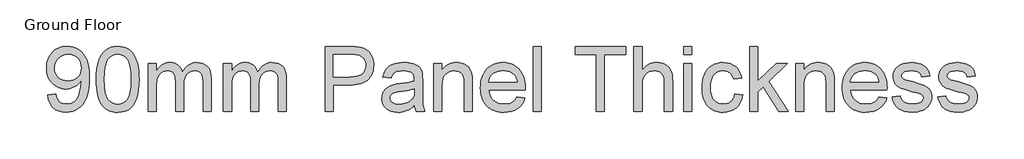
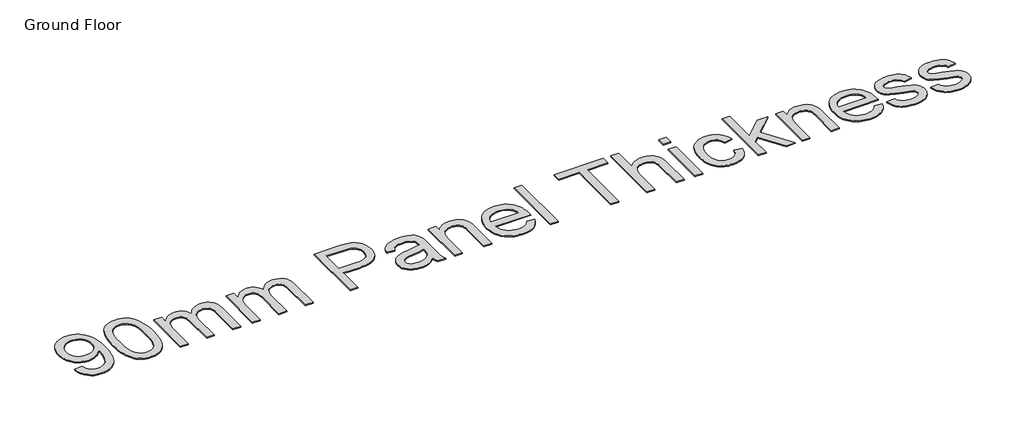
# One storey, part 5 of 6: 1 proxy.
"""IFC4 building model written with IfcOpenShell, lengths in millimetres."""

from ifc_helpers import new_model, si_unit, origin, origin_with_axes, place, context, project, spatial, polyline, outline, extrude, element, save

model = new_model("IFC4")

# Units and contexts
model_context = context("Model", 3, world=origin())
ifc_project = project(units=[si_unit("LENGTHUNIT", "METRE", prefix="MILLI")], contexts=[model_context])

# Site, building, storey
site = spatial("IfcSite", under=ifc_project)
building = spatial("IfcBuilding", under=site)
storey = spatial("IfcBuildingStorey", under=building, Name="Ground Floor", Elevation=0.0)

# Proxy
placement = place(None, origin())
element("IfcBuildingElementProxy", 1, Name="1200mm Arial", ObjectType="1200mm Arial", at=placement, inside=storey, context=model_context, shape_type="SweptSolid", body=[
    extrude(outline(polyline([(-5735.4136101, 23311.7631807), (-5584.7291449, 23330.5987389), (-5573.876626, 23284.4203514), (-5558.9774052, 23245.066175), (-5540.0314824, 23212.5362096), (-5517.0388577, 23186.8304552), (-5490.2570485, 23167.3235124), (-5459.9435721, 23153.3899818), (-5426.0984285, 23145.0298634), (-5388.7216178, 23142.2431573), (-5356.0444996, 23144.0365821), (-5324.8205153, 23149.4168562), (-5295.0496648, 23158.3839799), (-5266.7319482, 23170.937953), (-5240.869844, 23186.4901643), (-5218.4658305, 23204.4520027), (-5199.5199077, 23224.8234682), (-5184.0320757, 23247.6045608), (-5157.9492422, 23304.3319644), (-5134.7358884, 23378.570551), (-5118.4019278, 23463.7720211), (-5112.9572742, 23553.3880751), (-5113.840191, 23582.8186348), (-5137.9272647, 23549.304585), (-5166.0426461, 23519.1014732), (-5198.1863355, 23492.2092993), (-5234.3583326, 23468.6280635), (-5273.326233, 23449.4430174), (-5313.8576318, 23435.7394131), (-5355.9525291, 23427.5172505), (-5399.6109249, 23424.7765296), (-5436.1209136, 23426.4503927), (-5471.1915641, 23431.4719819), (-5504.8228762, 23439.8412973), (-5537.0148501, 23451.5583389), (-5567.7674856, 23466.6231066), (-5597.0807828, 23485.0356004), (-5624.9547418, 23506.7958205), (-5651.3893624, 23531.9037666), (-5675.4971294, 23559.7478351), (-5696.3905274, 23589.7164222), (-5714.0695566, 23621.8095277), (-5728.5342168, 23656.0271518), (-5739.784508, 23692.3692944), (-5747.8204304, 23730.8359555), (-5752.6419838, 23771.4271352), (-5754.2491682, 23814.1428333), (-5752.5638088, 23858.2886727), (-5747.5077307, 23900.2272202), (-5739.0809337, 23939.9584757), (-5727.283418, 23977.4824392), (-5712.1151835, 24012.7991107), (-5693.5762302, 24045.9084903), (-5671.6665581, 24076.8105779), (-5646.3861672, 24105.5053735), (-5618.5673906, 24131.3720763), (-5589.0425612, 24153.7898854), (-5557.8116791, 24172.7588007), (-5524.8747442, 24188.2788224), (-5490.2317566, 24200.3499504), (-5453.8827162, 24208.9721846), (-5415.8276231, 24214.1455252), (-5376.0664772, 24215.8699721), (-5318.6125066, 24211.9336347), (-5263.6785277, 24200.1246227), (-5211.2645404, 24180.4429359), (-5161.3705448, 24152.8885745), (-5115.6612069, 24118.0501495), (-5075.8011927, 24076.5162723), (-5041.7905023, 24028.2869427), (-5013.6291355, 23973.3621608), (-4991.5470188, 23908.5781415), (-4975.7740782, 23830.7710995), (-4966.3103139, 23739.9410349), (-4963.1557258, 23636.0879477), (-4966.3011169, 23527.0201331), (-4975.73729, 23429.6693602), (-4991.4642453, 23344.0356287), (-5013.4819827, 23270.1189389), (-5041.7077288, 23206.1166687), (-5076.0587101, 23150.2261966), (-5116.5349266, 23102.4475225), (-5163.1363784, 23062.7806464), (-5214.9249663, 23031.6210414), (-5270.9625912, 23009.3641807), (-5331.2492531, 22996.0100643), (-5395.7849521, 22991.5586921), (-5463.4568451, 22996.8102076), (-5524.6172268, 23012.564754), (-5579.2660972, 23038.8223314), (-5627.4034563, 23075.5829398), (-5667.8152935, 23121.8532978), (-5699.2875982, 23176.6401239), (-5721.8203704, 23239.9434182), (-5735.4136101, 23311.7631807)]), holes=[polyline([(-5113.840191, 23817.6745005), (-5117.9052871, 23871.6795774), (-5130.1005752, 23919.7985423), (-5150.4260554, 23962.0313954), (-5178.8817278, 23998.3781365), (-5214.0696406, 24027.606361), (-5254.5918424, 24048.4836643), (-5300.4483331, 24061.0100462), (-5351.6391127, 24065.1855068), (-5404.4669672, 24060.6881494), (-5452.2916266, 24047.1960773), (-5495.1130908, 24024.7092903), (-5532.9313599, 23993.2277886), (-5563.8334475, 23954.590982), (-5585.9063672, 23910.6382807), (-5599.1501191, 23861.3696845), (-5603.564703, 23806.7851934), (-5599.3892424, 23757.8292969), (-5586.8628604, 23713.6742604), (-5565.9855572, 23674.320084), (-5536.7573327, 23639.7667676), (-5500.3921975, 23611.632992), (-5458.1041621, 23591.537438), (-5409.8932266, 23579.4801057), (-5355.7593911, 23575.4609949), (-5305.2767843, 23579.4801057), (-5259.4846729, 23591.537438), (-5218.383057, 23611.632992), (-5181.9719365, 23639.7667676), (-5152.1642979, 23675.0006657), (-5130.8731274, 23716.3965872), (-5118.0984251, 23763.9545321), (-5113.840191, 23817.6745005)])]), origin_with_axes(), (0.0, 0.0, 1.0), 20.0),
    extrude(outline(polyline([(-4831.3068187, 23603.4200265), (-4828.5385067, 23704.7807132), (-4820.2335707, 23796.374133), (-4806.3920106, 23878.2002857), (-4787.0138265, 23950.2591715), (-4762.1817918, 24013.1394016), (-4731.97868, 24067.429587), (-4696.4044911, 24113.1297279), (-4655.459225, 24150.2398241), (-4609.0049261, 24178.9530138), (-4556.9036385, 24199.4624351), (-4499.1553623, 24211.7680878), (-4435.7600975, 24215.8699721), (-4388.1193791, 24213.4419509), (-4342.9066819, 24206.1578874), (-4300.1220059, 24194.0177815), (-4259.765351, 24177.0216334), (-4222.8116046, 24155.4545514), (-4190.2356539, 24129.6016442), (-4162.037499, 24099.4629117), (-4138.2171398, 24065.038354), (-4117.5789599, 24026.4659268), (-4098.9273427, 23983.8835859), (-4067.5837967, 23886.6891628), (-4055.6092378, 23829.5294978), (-4047.0559814, 23763.2647534), (-4041.9240276, 23687.8949296), (-4040.2133763, 23603.4200265), (-4042.9540972, 23502.7031333), (-4051.1762598, 23411.569566), (-4064.8798641, 23330.0193247), (-4084.0649101, 23258.0524094), (-4108.7038068, 23195.1445882), (-4138.7689628, 23140.7716294), (-4174.2603783, 23094.9335328), (-4215.1780532, 23057.6302984), (-4261.6875344, 23028.7239707), (-4313.9543689, 23008.0765937), (-4371.9785566, 22995.6881675), (-4435.7600975, 22991.5586921), (-4478.434409, 22993.3521168), (-4518.7542756, 22998.732391), (-4556.7196975, 23007.6995146), (-4592.3306747, 23020.2534877), (-4625.587207, 23036.3943103), (-4656.4892946, 23056.1219823), (-4685.0369374, 23079.4365037), (-4711.2301355, 23106.3378746), (-4739.3731081, 23148.9340111), (-4763.7636844, 23197.1127569), (-4784.4018643, 23250.874112), (-4801.2876479, 23310.2180763), (-4814.4210352, 23375.14465), (-4823.802026, 23445.6538329), (-4829.4306206, 23521.745625), (-4831.3068187, 23603.4200265)]), holes=[polyline([(-4680.6223535, 23603.7143321), (-4676.2077696, 23472.7207507), (-4662.9640177, 23366.6879626), (-4653.0312039, 23323.0318661), (-4640.891098, 23285.6159679), (-4626.5437002, 23254.4402681), (-4609.9890104, 23229.5047666), (-4572.6121997, 23191.3278125), (-4531.1151107, 23164.0585596), (-4485.4977433, 23147.6970079), (-4435.7600975, 23142.2431573), (-4386.0224518, 23147.715402), (-4340.4050844, 23164.132136), (-4298.9079953, 23191.4933594), (-4261.5311846, 23229.7990722), (-4244.9764948, 23254.7943545), (-4230.629097, 23286.002244), (-4218.4889912, 23323.4227407), (-4208.5561773, 23367.0558446), (-4195.3124255, 23472.9598739), (-4190.8978415, 23603.7143321), (-4195.1652727, 23731.2406257), (-4207.9675661, 23835.4064126), (-4217.5692862, 23878.7291161), (-4229.3047218, 23916.2116929), (-4243.173873, 23947.854143), (-4259.1767398, 23973.6564664), (-4295.9281512, 24013.7004216), (-4337.9034868, 24042.3032467), (-4385.1027468, 24059.4649418), (-4437.5259311, 24065.1855068), (-4487.0060594, 24060.1455235), (-4531.8508747, 24045.0255735), (-4572.0603767, 24019.8256568), (-4607.6345657, 23984.5457735), (-4624.7410784, 23955.9981307), (-4639.5667228, 23922.0058343), (-4652.1114989, 23882.5688844), (-4662.3754065, 23837.687281), (-4676.0606168, 23731.5901136), (-4680.6223535, 23603.7143321)])]), origin_with_axes(), (0.0, 0.0, 1.0), 20.0),
    extrude(outline(polyline([(-3870.6933529, 23010.3942503), (-3870.6933529, 23895.6654835), (-3720.0088877, 23895.6654835), (-3720.0088877, 23749.9842134), (-3698.9660376, 23785.2548997), (-3674.6858259, 23816.9019483), (-3647.1682527, 23844.9253593), (-3616.4133179, 23869.3251326), (-3582.9176622, 23889.0895928), (-3547.1779264, 23903.2070644), (-3509.1941104, 23911.6775473), (-3468.9662142, 23914.5010416), (-3424.9859217, 23911.622365), (-3385.1626957, 23902.9863352), (-3349.4965363, 23888.5929521), (-3317.9874434, 23868.4422158), (-3290.7273875, 23843.1043434), (-3267.8083392, 23813.1495519), (-3249.2302985, 23778.5778414), (-3234.9932653, 23739.3892119), (-3208.4965646, 23780.431047), (-3180.0684834, 23816.0006374), (-3149.7090217, 23846.0979831), (-3117.4181796, 23870.7230842), (-3083.195957, 23889.8759406), (-3047.0423539, 23903.5565523), (-3008.9573704, 23911.7649193), (-2968.9410063, 23914.5010416), (-2908.6175562, 23909.9485019), (-2855.67014, 23896.2908828), (-2810.0987579, 23873.5281844), (-2771.9034097, 23841.6604066), (-2755.7280983, 23822.2201424), (-2741.709495, 23800.3196674), (-2720.142413, 23749.1380848), (-2707.2021638, 23688.1156588), (-2702.8887474, 23617.2523895), (-2702.8887474, 23010.3942503), (-2853.5732127, 23010.3942503), (-2853.5732127, 23552.5051584), (-2857.0680916, 23627.66345), (-2867.5527285, 23678.3208007), (-2875.9588321, 23696.5953388), (-2887.197627, 23713.0120729), (-2901.2691133, 23727.5710028), (-2918.173291, 23740.2721287), (-2937.2939577, 23750.5728246), (-2958.0149111, 23757.9304645), (-3004.2576779, 23763.8165764), (-3046.9595805, 23760.0457859), (-3085.8906926, 23748.7334146), (-3121.0510143, 23729.8794623), (-3152.4405455, 23703.4839292), (-3178.2566646, 23668.7742629), (-3196.6967496, 23624.9779114), (-3207.7608006, 23572.0948746), (-3211.4488176, 23510.1251525), (-3211.4488176, 23010.3942503), (-3362.1332828, 23010.3942503), (-3362.1332828, 23569.2805773), (-3364.3129836, 23614.9347329), (-3370.8520861, 23654.4820474), (-3381.7505902, 23687.9225208), (-3397.0084959, 23715.256153), (-3417.2328086, 23736.5013382), (-3443.0305335, 23751.6764705), (-3474.4016707, 23760.7815499), (-3511.34622, 23763.8165764), (-3540.9423265, 23761.7932254), (-3569.3979989, 23755.7231725), (-3596.713237, 23745.6064176), (-3622.888041, 23731.4429608), (-3646.7267943, 23713.3799548), (-3667.0338804, 23691.5645525), (-3683.8092994, 23665.9967539), (-3697.0530512, 23636.6765589), (-3707.0962297, 23602.040469), (-3714.2699286, 23560.5249859), (-3718.5741479, 23512.1301094), (-3720.0088877, 23456.8558396), (-3720.0088877, 23010.3942503), (-3870.6933529, 23010.3942503)])), origin_with_axes(), (0.0, 0.0, 1.0), 20.0),
    extrude(outline(polyline([(-2476.8620496, 23010.3942503), (-2476.8620496, 23895.6654835), (-2326.1775844, 23895.6654835), (-2326.1775844, 23749.9842134), (-2305.1347343, 23785.2548997), (-2280.8545226, 23816.9019483), (-2253.3369493, 23844.9253593), (-2222.5820145, 23869.3251326), (-2189.0863589, 23889.0895928), (-2153.346623, 23903.2070644), (-2115.362807, 23911.6775473), (-2075.1349109, 23914.5010416), (-2031.1546183, 23911.622365), (-1991.3313924, 23902.9863352), (-1955.6652329, 23888.5929521), (-1924.15614, 23868.4422158), (-1896.8960842, 23843.1043434), (-1873.9770359, 23813.1495519), (-1855.3989951, 23778.5778414), (-1841.1619619, 23739.3892119), (-1814.6652612, 23780.431047), (-1786.2371801, 23816.0006374), (-1755.8777184, 23846.0979831), (-1723.5868763, 23870.7230842), (-1689.3646537, 23889.8759406), (-1653.2110506, 23903.5565523), (-1615.126067, 23911.7649193), (-1575.109703, 23914.5010416), (-1514.7862529, 23909.9485019), (-1461.8388367, 23896.2908828), (-1416.2674546, 23873.5281844), (-1378.0721064, 23841.6604066), (-1361.8967949, 23822.2201424), (-1347.8781917, 23800.3196674), (-1326.3111097, 23749.1380848), (-1313.3708605, 23688.1156588), (-1309.0574441, 23617.2523895), (-1309.0574441, 23010.3942503), (-1459.7419093, 23010.3942503), (-1459.7419093, 23552.5051584), (-1463.2367883, 23627.66345), (-1473.7214252, 23678.3208007), (-1482.1275287, 23696.5953388), (-1493.3663237, 23713.0120729), (-1507.43781, 23727.5710028), (-1524.3419877, 23740.2721287), (-1543.4626544, 23750.5728246), (-1564.1836078, 23757.9304645), (-1610.4263746, 23763.8165764), (-1653.1282771, 23760.0457859), (-1692.0593893, 23748.7334146), (-1727.219711, 23729.8794623), (-1758.6092422, 23703.4839292), (-1784.4253612, 23668.7742629), (-1802.8654462, 23624.9779114), (-1813.9294972, 23572.0948746), (-1817.6175142, 23510.1251525), (-1817.6175142, 23010.3942503), (-1968.3019795, 23010.3942503), (-1968.3019795, 23569.2805773), (-1970.4816803, 23614.9347329), (-1977.0207828, 23654.4820474), (-1987.9192869, 23687.9225208), (-2003.1771926, 23715.256153), (-2023.4015053, 23736.5013382), (-2049.1992302, 23751.6764705), (-2080.5703673, 23760.7815499), (-2117.5149167, 23763.8165764), (-2147.1110232, 23761.7932254), (-2175.5666955, 23755.7231725), (-2202.8819337, 23745.6064176), (-2229.0567376, 23731.4429608), (-2252.8954909, 23713.3799548), (-2273.2025771, 23691.5645525), (-2289.977996, 23665.9967539), (-2303.2217479, 23636.6765589), (-2313.2649263, 23602.040469), (-2320.4386253, 23560.5249859), (-2324.7428446, 23512.1301094), (-2326.1775844, 23456.8558396), (-2326.1775844, 23010.3942503), (-2476.8620496, 23010.3942503)])), origin_with_axes(), (0.0, 0.0, 1.0), 20.0),
    extrude(outline(polyline([(-593.3062343, 23010.3942503), (-593.3062343, 24215.8699721), (-146.5503394, 24215.8699721), (-42.5133111, 24213.0004925), (33.5646855, 24204.3920538), (75.4940359, 24195.3513538), (113.873325, 24182.9445335), (148.7025529, 24167.1715929), (179.9817196, 24148.0325321), (208.0419187, 24125.1318779), (233.2142443, 24098.0741572), (255.4986961, 24066.8593699), (274.8952743, 24031.4875161), (290.6038355, 23993.126621), (301.8242364, 23952.9447101), (308.5564769, 23910.9417833), (310.8005571, 23867.1178406), (304.7397012, 23793.1183773), (297.1636313, 23758.3397332), (286.5571336, 23725.0418141), (272.9202079, 23693.22462), (256.2528542, 23662.888151), (236.5550726, 23634.032407), (213.8268631, 23606.657388), (187.1439222, 23581.6873976), (155.5819462, 23560.0467393), (119.1409354, 23541.7354129), (77.8208895, 23526.7534187), (31.6218087, 23515.1007565), (-19.4563071, 23506.7774264), (-75.4134578, 23501.7834283), (-136.2496435, 23500.1187622), (-442.6217691, 23500.1187622), (-442.6217691, 23010.3942503), (-593.3062343, 23010.3942503)]), holes=[polyline([(-442.6217691, 23650.8032275), (-127.4204756, 23650.8032275), (-54.9477226, 23654.2613182), (6.194265, 23664.6355905), (56.0054872, 23681.9260443), (94.4859439, 23706.1326795), (123.1991336, 23736.6117028), (143.7085548, 23772.7193207), (156.0142076, 23814.455533), (160.1160918, 23861.8203399), (157.6972677, 23896.9898586), (150.4407954, 23929.510627), (138.3466748, 23959.382645), (121.4149059, 23986.6059127), (100.5467998, 24010.2975132), (76.6436671, 24029.5745297), (49.705508, 24044.4369623), (19.7323225, 24054.884811), (-38.3930328, 24062.6103329), (-130.9521428, 24065.1855068), (-442.6217691, 24065.1855068), (-442.6217691, 23650.8032275)])]), origin_with_axes(), (0.0, 0.0, 1.0), 20.0),
    extrude(outline(polyline([(1064.2228832, 23123.4075992), (1028.4923444, 23089.8751553), (992.2283767, 23061.6770004), (955.4309802, 23038.8131344), (918.1001547, 23021.2835573), (879.812836, 23008.2789288), (840.1459599, 22998.9899084), (799.0995263, 22993.4164962), (756.6735352, 22991.5586921), (689.5810563, 22996.0284584), (630.7475283, 23009.4377571), (580.172951, 23031.7865883), (537.8573245, 23063.074952), (504.4444423, 23101.3162854), (480.5780978, 23144.5240257), (466.2582912, 23192.698173), (461.4850223, 23245.8387272), (463.2876441, 23277.7892785), (468.6955094, 23308.30509), (477.7086183, 23337.3861617), (490.3269707, 23365.0324936), (505.879182, 23390.6370805), (523.6938677, 23413.592917), (543.7710275, 23433.9000031), (566.1106617, 23451.5583389), (615.9586721, 23480.2531345), (671.6192179, 23501.001679), (725.845024, 23512.5531737), (801.996597, 23523.6632099), (956.0655766, 23547.5019632), (1015.5520952, 23560.9664442), (1063.3399664, 23575.4609949), (1064.2228832, 23609.0118328), (1061.6293151, 23645.5425149), (1053.8486109, 23676.2606615), (1040.8807706, 23701.1662726), (1022.7257941, 23720.2593482), (991.3454599, 23739.3156355), (953.1225206, 23752.9272693), (908.0569762, 23761.0942496), (856.1488267, 23763.8165764), (807.8827089, 23762.0047576), (766.3856199, 23756.5693011), (731.6575595, 23747.5102069), (703.6985279, 23734.8274752), (680.7242973, 23717.5278243), (660.9506401, 23694.6179731), (644.3775562, 23666.0979214), (631.0050457, 23631.9676693), (480.3205804, 23650.8032275), (491.7893016, 23694.2133029), (506.4769903, 23733.2087944), (524.3836464, 23767.7897019), (545.50927, 23797.9560255), (570.7643689, 23824.3147705), (601.0594512, 23847.4729421), (636.3945169, 23867.4305403), (676.7695659, 23884.1875652), (721.3660607, 23897.4497111), (769.365464, 23906.9226725), (820.7677758, 23912.6064493), (875.572996, 23914.5010416), (929.1458116, 23912.8271785), (977.4395205, 23907.8055893), (1020.4541228, 23899.4362739), (1058.1896185, 23887.7192324), (1090.9587072, 23873.4730021), (1119.0740887, 23857.5161206), (1142.5357629, 23839.8485877), (1161.3437299, 23820.4704036), (1176.5924386, 23798.9033217), (1189.3763379, 23774.6690952), (1207.5497085, 23718.199209), (1213.0679384, 23666.1071185), (1214.9073484, 23586.3503019), (1214.9073484, 23398.8776372), (1216.8203348, 23235.5748195), (1222.5592939, 23137.0928094), (1233.8900593, 23072.3823665), (1252.5784647, 23010.3942503), (1101.8939995, 23010.3942503), (1088.5030949, 23035.5573787), (1077.7609406, 23062.7806464), (1064.2228832, 23123.4075992)]), holes=[polyline([(1064.2228832, 23424.7765296), (1018.6790922, 23411.7351129), (962.9817581, 23399.6869776), (821.1264608, 23378.570551), (742.9515368, 23367.0190564), (691.4848457, 23354.1431866), (657.7500667, 23337.441344), (632.7708792, 23314.4119311), (617.3198354, 23286.8207814), (612.1694875, 23256.4337286), (614.9745877, 23233.0180396), (623.3898884, 23211.6257016), (637.4153894, 23192.2567146), (657.0510909, 23174.9110785), (682.1130518, 23160.618863), (712.4173312, 23150.4101376), (747.963929, 23144.2849024), (788.7528452, 23142.2431573), (830.397087, 23144.4964346), (869.6868841, 23151.2562662), (906.6222364, 23162.5226523), (941.203144, 23178.2955929), (972.3995372, 23197.2691068), (999.1813464, 23218.1372129), (1021.5485717, 23240.8999114), (1039.5012131, 23265.5572021), (1049.9306677, 23287.6301218), (1057.3802781, 23314.4119311), (1061.8500443, 23345.9026299), (1063.3399664, 23382.1022182), (1064.2228832, 23424.7765296)])]), origin_with_axes(), (0.0, 0.0, 1.0), 20.0),
    extrude(outline(polyline([(1422.0984881, 23010.3942503), (1422.0984881, 23895.6654835), (1572.7829533, 23895.6654835), (1572.7829533, 23772.0571331), (1597.6425791, 23805.4424241), (1625.1325612, 23834.3763431), (1655.2528996, 23858.8588898), (1688.0035942, 23878.8900645), (1723.3846451, 23894.469867), (1761.3960522, 23905.5982973), (1802.0378157, 23912.2753555), (1845.3099353, 23914.5010416), (1883.229372, 23912.7076169), (1919.5853102, 23907.3273427), (1954.3777499, 23898.3602191), (1987.6066911, 23885.806246), (2018.012138, 23870.3368081), (2044.3340947, 23852.62329), (2066.5725613, 23832.6656918), (2084.7275378, 23810.4640134), (2112.1347464, 23759.4387806), (2129.9034468, 23699.6579564), (2135.8631351, 23642.4890944), (2137.8496979, 23553.9766863), (2137.8496979, 23010.3942503), (1987.1652327, 23010.3942503), (1987.1652327, 23533.6696002), (1982.8242251, 23611.5870068), (1977.3979657, 23642.1028183), (1969.8012025, 23666.9900353), (1959.4545214, 23687.9501119), (1945.7785082, 23706.6845025), (1928.773163, 23723.1932071), (1908.4384857, 23737.4762255), (1885.4734522, 23749.000129), (1860.5770381, 23757.2314887), (1833.7492436, 23762.1703045), (1804.9900687, 23763.8165764), (1759.2347455, 23760.1193623), (1716.735178, 23749.0277202), (1677.4913662, 23730.5416499), (1641.50331, 23704.6611516), (1625.3969764, 23688.2122279), (1611.4381539, 23668.4431691), (1599.6268426, 23645.3539754), (1589.9630425, 23618.9446467), (1577.0779756, 23556.1655842), (1572.7829533, 23480.1059817), (1572.7829533, 23010.3942503), (1422.0984881, 23010.3942503)])), origin_with_axes(), (0.0, 0.0, 1.0), 20.0),
    extrude(outline(polyline([(2964.8484231, 23274.0920644), (3112.5898323, 23255.2565063), (3089.9374985, 23196.0826873), (3059.3573076, 23143.9354145), (3020.8492598, 23098.8146878), (2974.4133549, 23060.7205072), (2920.5278397, 23030.4622131), (2859.6709606, 23008.8491459), (2791.8427178, 22995.8813056), (2717.0431111, 22991.5586921), (2669.0207152, 22993.423394), (2623.545902, 22999.0174996), (2580.6186717, 23008.3410089), (2540.2390242, 23021.3939219), (2502.4069595, 23038.1762387), (2467.1224777, 23058.6879592), (2434.3855786, 23082.9290834), (2404.1962624, 23110.8996113), (2377.0879579, 23142.2362595), (2353.594094, 23176.5757445), (2333.7146707, 23213.9180663), (2317.4496879, 23254.2632249), (2304.7991458, 23297.6112202), (2295.7630443, 23343.9620523), (2290.3413834, 23393.3157213), (2288.5341631, 23445.672227), (2290.3597775, 23499.8106611), (2295.8366207, 23550.8312953), (2304.9646927, 23598.7341296), (2317.7439935, 23643.519164), (2334.1745231, 23685.1863984), (2354.2562816, 23723.735833), (2377.9892688, 23759.1674677), (2405.3734848, 23791.4813024), (2435.6685671, 23820.3140538), (2468.1341532, 23845.3024383), (2502.770243, 23866.446456), (2539.5768366, 23883.7461068), (2578.553934, 23897.2013908), (2619.7015352, 23906.8123079), (2663.0196401, 23912.5788582), (2708.5082488, 23914.5010416), (2752.5092347, 23912.5834567), (2794.4546799, 23906.830702), (2834.3445845, 23897.2427775), (2872.1789485, 23883.8196832), (2907.9577718, 23866.5614191), (2941.6810544, 23845.4679852), (2973.3487964, 23820.5393815), (3002.9609978, 23791.775608), (3029.7589018, 23759.5353497), (3052.983752, 23724.1772914), (3072.6355484, 23685.7014332), (3088.7142908, 23644.1077752), (3101.2199794, 23599.3963172), (3110.1526141, 23551.5670593), (3115.5121949, 23500.6200015), (3117.2987219, 23446.5551437), (3116.4158051, 23405.9409715), (2439.2186283, 23405.9409715), (2447.9466287, 23345.8106594), (2465.3014618, 23293.1483518), (2491.2831277, 23247.9540486), (2525.8916264, 23210.22775), (2567.2139715, 23180.4844907), (2613.3371767, 23159.2393055), (2664.2612418, 23146.4921944), (2719.9861671, 23142.2431573), (2761.6671971, 23144.211326), (2800.184442, 23150.115832), (2835.5379018, 23159.9566754), (2867.7275763, 23173.7338561), (2896.7534657, 23191.8152562), (2922.61557, 23214.5687576), (2945.3138891, 23241.9943603), (2964.8484231, 23274.0920644)]), holes=[polyline([(2439.2186283, 23556.6254367), (2966.6142566, 23556.6254367), (2958.8703406, 23599.2629599), (2946.2335941, 23636.2351005), (2928.704017, 23667.5418582), (2906.2816094, 23693.1832333), (2865.1891906, 23724.0853209), (2818.431389, 23746.1582406), (2766.0082047, 23759.4019924), (2707.9196376, 23763.8165764), (2654.9354333, 23760.2941063), (2606.3474188, 23749.726696), (2562.1555941, 23732.1143455), (2522.3599593, 23707.4570547), (2488.9654711, 23676.895258), (2463.9770866, 23641.5693894), (2447.3948057, 23601.479449), (2439.2186283, 23556.6254367)])]), origin_with_axes(), (0.0, 0.0, 1.0), 20.0),
    extrude(outline(polyline([(3267.9831871, 23010.3942503), (3267.9831871, 24215.8699721), (3418.6676523, 24215.8699721), (3418.6676523, 23010.3942503), (3267.9831871, 23010.3942503)])), origin_with_axes(), (0.0, 0.0, 1.0), 20.0),
    extrude(outline(polyline([(4435.7877926, 23010.3942503), (4435.7877926, 24065.1855068), (4040.2410714, 24065.1855068), (4040.2410714, 24215.8699721), (4982.018979, 24215.8699721), (4982.018979, 24065.1855068), (4586.4722578, 24065.1855068), (4586.4722578, 23010.3942503), (4435.7877926, 23010.3942503)])), origin_with_axes(), (0.0, 0.0, 1.0), 20.0),
    extrude(outline(polyline([(5132.7034442, 23010.3942503), (5132.7034442, 24215.8699721), (5283.3879095, 24215.8699721), (5283.3879095, 23772.6457443), (5310.2111054, 23805.8930796), (5338.7357556, 23834.7074369), (5368.9618601, 23859.0888161), (5400.8894187, 23879.0372173), (5434.5184316, 23894.5526404), (5469.8488987, 23905.6350855), (5506.8808201, 23912.2845526), (5545.6141956, 23914.5010416), (5592.7214851, 23912.0822175), (5636.6282012, 23904.8257451), (5677.334344, 23892.7316245), (5714.8399134, 23875.7998557), (5748.1884163, 23854.6006557), (5776.4233594, 23829.7042417), (5799.5447428, 23801.1106136), (5817.5525665, 23768.8197715), (5831.0722298, 23730.8359555), (5840.7291322, 23685.1634058), (5846.5232736, 23631.8021224), (5848.454654, 23570.7521053), (5848.454654, 23010.3942503), (5697.7701888, 23010.3942503), (5697.7701888, 23555.1539087), (5694.7719506, 23606.0319887), (5685.7772358, 23649.4788523), (5670.7860445, 23685.4944996), (5649.7983767, 23714.0789306), (5623.310873, 23735.8391507), (5591.8201742, 23751.3821649), (5555.3262803, 23760.7079735), (5513.8291912, 23763.8165764), (5481.5015609, 23761.719649), (5450.1488179, 23755.4288669), (5419.7709621, 23744.94423), (5390.3679937, 23730.2657384), (5363.5310021, 23712.0003974), (5340.8510771, 23690.7552121), (5322.3282186, 23666.5301828), (5307.9624267, 23639.3253092), (5297.2110754, 23607.8897927), (5289.5315388, 23570.9728345), (5284.9238168, 23528.5744346), (5283.3879095, 23480.6945929), (5283.3879095, 23010.3942503), (5132.7034442, 23010.3942503)])), origin_with_axes(), (0.0, 0.0, 1.0), 20.0),
    extrude(outline(polyline([(6055.6457937, 24065.1855068), (6055.6457937, 24215.8699721), (6206.330259, 24215.8699721), (6206.330259, 24065.1855068), (6055.6457937, 24065.1855068)])), origin_with_axes(), (0.0, 0.0, 1.0), 20.0),
    extrude(outline(polyline([(6055.6457937, 23010.3942503), (6055.6457937, 23895.6654835), (6206.330259, 23895.6654835), (6206.330259, 23010.3942503), (6055.6457937, 23010.3942503)])), origin_with_axes(), (0.0, 0.0, 1.0), 20.0),
    extrude(outline(polyline([(6997.4237014, 23330.5987389), (7148.1081666, 23311.7631807), (7131.7190237, 23240.6607881), (7106.0960428, 23177.7437699), (7071.2392237, 23123.012126), (7027.1485666, 23076.4658566), (6975.6818755, 23039.3189721), (6918.6969544, 23012.7854832), (6856.1938034, 22996.8653899), (6788.1724225, 22991.5586921), (6744.8244272, 22993.4095984), (6703.6607312, 22998.9623173), (6664.6813345, 23008.2168487), (6627.8862372, 23021.1731927), (6593.2754393, 23037.8313493), (6560.8489407, 23058.1913185), (6530.6067414, 23082.2531002), (6502.5488415, 23110.0166946), (6477.2684506, 23141.2383796), (6455.3587785, 23175.6744336), (6436.8198252, 23213.3248566), (6421.6515907, 23254.1896485), (6409.854075, 23298.2688093), (6401.427278, 23345.562339), (6396.3711999, 23396.0702377), (6394.6858405, 23449.7925053), (6397.5645171, 23519.073882), (6406.2005469, 23583.8854925), (6420.59393, 23644.2273368), (6440.7446663, 23700.0994148), (6466.7907115, 23750.3796865), (6498.8700215, 23793.9461118), (6536.9825962, 23830.7986907), (6581.1284356, 23860.9374231), (6629.31178, 23884.3715062), (6679.5368694, 23901.110137), (6731.8037038, 23911.1533155), (6786.1122834, 23914.5010416), (6852.9656389, 23909.9025167), (6913.4362419, 23896.1069419), (6967.5240922, 23873.1143172), (7015.22919, 23840.9246426), (7055.7421947, 23800.2736821), (7088.253766, 23751.8971997), (7112.7639039, 23695.7951955), (7129.2726085, 23631.9676693), (6978.5881432, 23613.1321112), (6966.8251164, 23648.3292211), (6951.254511, 23678.8726237), (6931.8763269, 23704.7623191), (6908.6905641, 23725.9983073), (6882.2858339, 23742.5438), (6853.2507475, 23754.3620091), (6821.5853047, 23761.4529346), (6787.2895057, 23763.8165764), (6736.0895291, 23759.1628691), (6689.9111416, 23745.2017474), (6648.7543434, 23721.9332112), (6612.6191344, 23689.3572606), (6596.8576902, 23669.3904653), (6583.1977719, 23646.7197373), (6562.1825129, 23593.2664834), (6549.5733575, 23528.9974989), (6545.3703057, 23453.9127836), (6549.481387, 23377.6968313), (6561.8146309, 23312.6828857), (6582.3700374, 23258.8709469), (6595.7310516, 23236.16573), (6611.1476064, 23216.2610148), (6646.5654455, 23183.8782021), (6687.0416621, 23160.7476217), (6732.576256, 23146.8692734), (6783.1692274, 23142.2431573), (6823.9397495, 23145.131031), (6861.1969986, 23153.794652), (6894.9409746, 23168.2340203), (6925.1716775, 23188.4491359), (6951.0429788, 23214.6607281), (6971.7087499, 23247.089526), (6987.1689908, 23285.7355296), (6997.4237014, 23330.5987389)])), origin_with_axes(), (0.0, 0.0, 1.0), 20.0),
    extrude(outline(polyline([(7279.9570737, 23010.3942503), (7279.9570737, 24215.8699721), (7430.6415389, 24215.8699721), (7430.6415389, 23568.103355), (7768.5043633, 23895.6654835), (7976.8727253, 23895.6654835), (7634.8896226, 23563.9830766), (7995.7082835, 23010.3942503), (7819.713537, 23010.3942503), (7526.8794688, 23459.2102844), (7430.6415389, 23365.9154104), (7430.6415389, 23010.3942503), (7279.9570737, 23010.3942503)])), origin_with_axes(), (0.0, 0.0, 1.0), 20.0),
    extrude(outline(polyline([(8127.5571906, 23010.3942503), (8127.5571906, 23895.6654835), (8278.2416558, 23895.6654835), (8278.2416558, 23772.0571331), (8303.1012816, 23805.4424241), (8330.5912637, 23834.3763431), (8360.7116021, 23858.8588898), (8393.4622967, 23878.8900645), (8428.8433476, 23894.469867), (8466.8547547, 23905.5982973), (8507.4965181, 23912.2753555), (8550.7686378, 23914.5010416), (8588.6880745, 23912.7076169), (8625.0440126, 23907.3273427), (8659.8364523, 23898.3602191), (8693.0653936, 23885.806246), (8723.4708405, 23870.3368081), (8749.7927972, 23852.62329), (8772.0312638, 23832.6656918), (8790.1862403, 23810.4640134), (8817.5934489, 23759.4387806), (8835.3621493, 23699.6579564), (8841.3218376, 23642.4890944), (8843.3084004, 23553.9766863), (8843.3084004, 23010.3942503), (8692.6239352, 23010.3942503), (8692.6239352, 23533.6696002), (8688.2829276, 23611.5870068), (8682.8566682, 23642.1028183), (8675.259905, 23666.9900353), (8664.9132239, 23687.9501119), (8651.2372107, 23706.6845025), (8634.2318655, 23723.1932071), (8613.8971882, 23737.4762255), (8590.9321546, 23749.000129), (8566.0357406, 23757.2314887), (8539.2079461, 23762.1703045), (8510.4487711, 23763.8165764), (8464.693448, 23760.1193623), (8422.1938805, 23749.0277202), (8382.9500687, 23730.5416499), (8346.9620125, 23704.6611516), (8330.8556789, 23688.2122279), (8316.8968564, 23668.4431691), (8305.0855451, 23645.3539754), (8295.421745, 23618.9446467), (8282.5366781, 23556.1655842), (8278.2416558, 23480.1059817), (8278.2416558, 23010.3942503), (8127.5571906, 23010.3942503)])), origin_with_axes(), (0.0, 0.0, 1.0), 20.0),
    extrude(outline(polyline([(9670.3071255, 23274.0920644), (9818.0485348, 23255.2565063), (9795.396201, 23196.0826873), (9764.8160101, 23143.9354145), (9726.3079623, 23098.8146878), (9679.8720574, 23060.7205072), (9625.9865422, 23030.4622131), (9565.1296631, 23008.8491459), (9497.3014203, 22995.8813056), (9422.5018136, 22991.5586921), (9374.4794176, 22993.423394), (9329.0046045, 22999.0174996), (9286.0773742, 23008.3410089), (9245.6977267, 23021.3939219), (9207.865662, 23038.1762387), (9172.5811802, 23058.6879592), (9139.8442811, 23082.9290834), (9109.6549649, 23110.8996113), (9082.5466604, 23142.2362595), (9059.0527965, 23176.5757445), (9039.1733731, 23213.9180663), (9022.9083904, 23254.2632249), (9010.2578483, 23297.6112202), (9001.2217468, 23343.9620523), (8995.8000859, 23393.3157213), (8993.9928656, 23445.672227), (8995.81848, 23499.8106611), (9001.2953232, 23550.8312953), (9010.4233952, 23598.7341296), (9023.202696, 23643.519164), (9039.6332256, 23685.1863984), (9059.714984, 23723.735833), (9083.4479713, 23759.1674677), (9110.8321873, 23791.4813024), (9141.1272696, 23820.3140538), (9173.5928557, 23845.3024383), (9208.2289455, 23866.446456), (9245.0355391, 23883.7461068), (9284.0126365, 23897.2013908), (9325.1602377, 23906.8123079), (9368.4783426, 23912.5788582), (9413.9669513, 23914.5010416), (9457.9679372, 23912.5834567), (9499.9133824, 23906.830702), (9539.803287, 23897.2427775), (9577.637651, 23883.8196832), (9613.4164743, 23866.5614191), (9647.1397569, 23845.4679852), (9678.8074989, 23820.5393815), (9708.4197002, 23791.775608), (9735.2176043, 23759.5353497), (9758.4424545, 23724.1772914), (9778.0942509, 23685.7014332), (9794.1729933, 23644.1077752), (9806.6786819, 23599.3963172), (9815.6113166, 23551.5670593), (9820.9708974, 23500.6200015), (9822.7574243, 23446.5551437), (9821.8745076, 23405.9409715), (9144.6773308, 23405.9409715), (9153.4053312, 23345.8106594), (9170.7601643, 23293.1483518), (9196.7418302, 23247.9540486), (9231.3503289, 23210.22775), (9272.672674, 23180.4844907), (9318.7958792, 23159.2393055), (9369.7199443, 23146.4921944), (9425.4448696, 23142.2431573), (9467.1258996, 23144.211326), (9505.6431445, 23150.115832), (9540.9966042, 23159.9566754), (9573.1862788, 23173.7338561), (9602.2121682, 23191.8152562), (9628.0742725, 23214.5687576), (9650.7725916, 23241.9943603), (9670.3071255, 23274.0920644)]), holes=[polyline([(9144.6773308, 23556.6254367), (9672.0729591, 23556.6254367), (9664.3290431, 23599.2629599), (9651.6922966, 23636.2351005), (9634.1627195, 23667.5418582), (9611.7403119, 23693.1832333), (9570.647893, 23724.0853209), (9523.8900915, 23746.1582406), (9471.4669071, 23759.4019924), (9413.3783401, 23763.8165764), (9360.3941358, 23760.2941063), (9311.8061212, 23749.726696), (9267.6142966, 23732.1143455), (9227.8186617, 23707.4570547), (9194.4241736, 23676.895258), (9169.4357891, 23641.5693894), (9152.8535082, 23601.479449), (9144.6773308, 23556.6254367)])]), origin_with_axes(), (0.0, 0.0, 1.0), 20.0),
    extrude(outline(polyline([(9916.9352151, 23274.0920644), (10067.6196803, 23292.9276226), (10076.7247597, 23258.5674442), (10091.3848572, 23228.474697), (10111.5999729, 23202.6493809), (10137.3701066, 23181.091496), (10168.7688349, 23164.0953478), (10205.8697341, 23151.955242), (10248.6728043, 23144.6711785), (10297.1780453, 23142.2431573), (10345.6281041, 23144.4688434), (10387.3827105, 23151.1459016), (10422.4418647, 23162.274332), (10450.8055665, 23177.8541345), (10472.6945452, 23196.4321752), (10488.32953, 23216.5553204), (10497.7105209, 23238.2235699), (10500.8375179, 23261.4369238), (10497.6921268, 23281.7807981), (10488.2559536, 23299.8438041), (10472.5289983, 23315.6259417), (10450.5112609, 23329.1272109), (10394.0781629, 23348.2570746), (10295.4122117, 23372.0958279), (10157.8979219, 23411.8638716), (10068.5025971, 23445.8193798), (10037.8120417, 23462.8431191), (10011.0762177, 23482.8650967), (9988.2951251, 23505.8853125), (9969.468764, 23531.9037666), (9954.7258931, 23560.1387098), (9944.195271, 23589.8083927), (9937.8768977, 23620.9128154), (9935.7707733, 23653.4519778), (9937.4630304, 23683.2044342), (9942.539802, 23711.8348505), (9951.0010879, 23739.3432267), (9962.8468881, 23765.7295628), (9977.6173502, 23790.4604299), (9994.8526217, 23813.0023991), (10014.5527025, 23833.3554705), (10036.7175927, 23851.519644), (10078.3250464, 23875.7630675), (10132.5140643, 23896.1069419), (10195.1643681, 23909.9025167), (10262.1556794, 23914.5010416), (10312.794636, 23912.6524346), (10360.2330193, 23907.1066135), (10404.4708292, 23897.8635784), (10445.5080658, 23884.9233292), (10482.3698417, 23868.8284919), (10514.0812697, 23850.1216925), (10540.6423497, 23828.8029308), (10562.0530819, 23804.872207), (10579.417112, 23777.4925896), (10593.8380862, 23745.8271468), (10605.3160045, 23709.8758788), (10613.8508668, 23669.6387856), (10463.1664015, 23650.8032275), (10455.9835056, 23675.975553), (10444.1469024, 23698.2232166), (10427.656592, 23717.5462184), (10406.5125743, 23733.9445584), (10380.6228789, 23747.0135663), (10349.8955352, 23756.3485719), (10314.3305433, 23761.9495753), (10273.9279032, 23763.8165764), (10227.059737, 23762.0323487), (10187.402058, 23756.6796657), (10154.954866, 23747.7585273), (10129.7181611, 23735.2689336), (10110.7906325, 23720.406501), (10097.2709691, 23704.366846), (10089.1591712, 23687.1499686), (10086.4552385, 23668.7558688), (10090.9433988, 23645.5793031), (10104.4078799, 23624.904335), (10127.4372927, 23606.4366588), (10160.6202487, 23591.6478026), (10290.4090166, 23559.5684927), (10423.5455107, 23520.2051192), (10511.5796721, 23488.640844), (10542.5553361, 23473.2449825), (10569.9993329, 23454.722124), (10593.9116626, 23433.0722686), (10614.2923252, 23408.2954162), (10630.5803005, 23380.3547787), (10642.2145686, 23349.2135678), (10649.1951295, 23314.8717836), (10651.5219831, 23277.329426), (10648.7904593, 23239.6215215), (10640.5958878, 23203.0172629), (10626.9382687, 23167.5166504), (10607.8176021, 23133.1196839), (10583.5465874, 23101.1967237), (10554.4379246, 23073.1181304), (10520.4916134, 23048.883904), (10481.7076541, 23028.4940444), (10439.1437073, 23012.3348278), (10393.8574337, 23000.7925302), (10345.8488333, 22993.8671516), (10295.1179062, 22991.5586921), (10214.0183203, 22996.0100643), (10143.1826421, 23009.3641807), (10082.6108716, 23031.6210414), (10056.1739518, 23046.0880008), (10032.3030088, 23062.7806464), (9991.2105899, 23102.6958429), (9958.2851514, 23151.219478), (9933.5266931, 23208.3515519), (9916.9352151, 23274.0920644)])), origin_with_axes(), (0.0, 0.0, 1.0), 20.0),
    extrude(outline(polyline([(10764.535332, 23274.0920644), (10915.2197972, 23292.9276226), (10924.3248766, 23258.5674442), (10938.9849741, 23228.474697), (10959.2000897, 23202.6493809), (10984.9702235, 23181.091496), (11016.3689518, 23164.0953478), (11053.469851, 23151.955242), (11096.2729211, 23144.6711785), (11144.7781622, 23142.2431573), (11193.228221, 23144.4688434), (11234.9828274, 23151.1459016), (11270.0419816, 23162.274332), (11298.4056834, 23177.8541345), (11320.2946621, 23196.4321752), (11335.9296469, 23216.5553204), (11345.3106378, 23238.2235699), (11348.4376347, 23261.4369238), (11345.2922437, 23281.7807981), (11335.8560705, 23299.8438041), (11320.1291152, 23315.6259417), (11298.1113778, 23329.1272109), (11241.6782797, 23348.2570746), (11143.0123286, 23372.0958279), (11005.4980388, 23411.8638716), (10916.102714, 23445.8193798), (10885.4121586, 23462.8431191), (10858.6763346, 23482.8650967), (10835.895242, 23505.8853125), (10817.0688809, 23531.9037666), (10802.32601, 23560.1387098), (10791.7953878, 23589.8083927), (10785.4770146, 23620.9128154), (10783.3708901, 23653.4519778), (10785.0631473, 23683.2044342), (10790.1399189, 23711.8348505), (10798.6012047, 23739.3432267), (10810.447005, 23765.7295628), (10825.2174671, 23790.4604299), (10842.4527386, 23813.0023991), (10862.1528194, 23833.3554705), (10884.3177096, 23851.519644), (10925.9251633, 23875.7630675), (10980.1141812, 23896.1069419), (11042.7644849, 23909.9025167), (11109.7557963, 23914.5010416), (11160.3947529, 23912.6524346), (11207.8331362, 23907.1066135), (11252.0709461, 23897.8635784), (11293.1081827, 23884.9233292), (11329.9699586, 23868.8284919), (11361.6813866, 23850.1216925), (11388.2424666, 23828.8029308), (11409.6531987, 23804.872207), (11427.0172289, 23777.4925896), (11441.4382031, 23745.8271468), (11452.9161214, 23709.8758788), (11461.4509837, 23669.6387856), (11310.7665184, 23650.8032275), (11303.5836225, 23675.975553), (11291.7470193, 23698.2232166), (11275.2567088, 23717.5462184), (11254.1126912, 23733.9445584), (11228.2229958, 23747.0135663), (11197.4956521, 23756.3485719), (11161.9306602, 23761.9495753), (11121.5280201, 23763.8165764), (11074.6598539, 23762.0323487), (11035.0021748, 23756.6796657), (11002.5549829, 23747.7585273), (10977.318278, 23735.2689336), (10958.3907494, 23720.406501), (10944.871086, 23704.366846), (10936.759288, 23687.1499686), (10934.0553554, 23668.7558688), (10938.5435157, 23645.5793031), (10952.0079967, 23624.904335), (10975.0374096, 23606.4366588), (11008.2203656, 23591.6478026), (11138.0091335, 23559.5684927), (11271.1456276, 23520.2051192), (11359.179789, 23488.640844), (11390.155453, 23473.2449825), (11417.5994498, 23454.722124), (11441.5117795, 23433.0722686), (11461.8924421, 23408.2954162), (11478.1804174, 23380.3547787), (11489.8146855, 23349.2135678), (11496.7952463, 23314.8717836), (11499.1221, 23277.329426), (11496.3905762, 23239.6215215), (11488.1960047, 23203.0172629), (11474.5383856, 23167.5166504), (11455.4177189, 23133.1196839), (11431.1467043, 23101.1967237), (11402.0380414, 23073.1181304), (11368.0917303, 23048.883904), (11329.307771, 23028.4940444), (11286.7438241, 23012.3348278), (11241.4575505, 23000.7925302), (11193.4489502, 22993.8671516), (11142.718023, 22991.5586921), (11061.6184372, 22996.0100643), (10990.782759, 23009.3641807), (10930.2109885, 23031.6210414), (10903.7740686, 23046.0880008), (10879.9031257, 23062.7806464), (10838.8107068, 23102.6958429), (10805.8852683, 23151.219478), (10781.12681, 23208.3515519), (10764.535332, 23274.0920644)])), origin_with_axes(), (0.0, 0.0, 1.0), 20.0),
])

save(model, "model.ifc")
